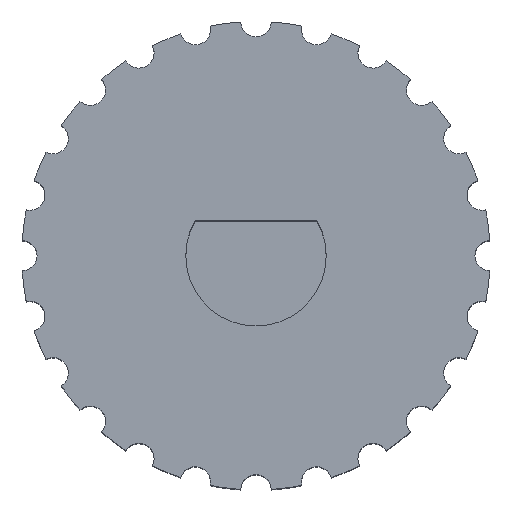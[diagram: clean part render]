
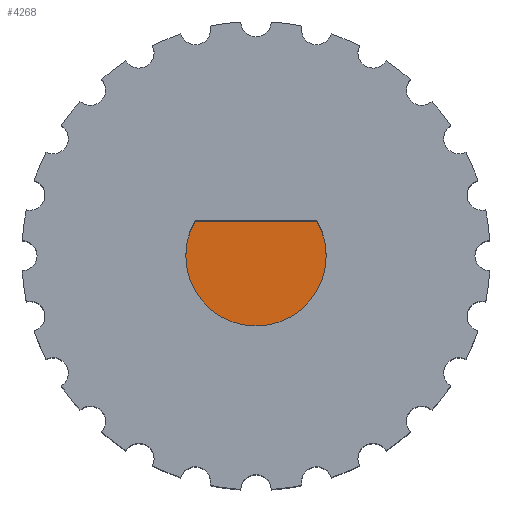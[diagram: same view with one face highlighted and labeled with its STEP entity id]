
A CAD part, top view. The second image highlights one B-rep face of the part: STEP entity #4268.
In plain terms, the highlighted planar face has unit normal (0, 0, 1).
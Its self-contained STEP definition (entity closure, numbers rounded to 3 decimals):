
#4161 = CYLINDRICAL_SURFACE('',#4162,3.);
#4162 = AXIS2_PLACEMENT_3D('',#4163,#4164,#4165);
#4163 = CARTESIAN_POINT('',(0.,0.,3.));
#4164 = DIRECTION('',(0.,0.,1.));
#4165 = DIRECTION('',(1.,0.,-0.));
#4186 = PLANE('',#4187);
#4187 = AXIS2_PLACEMENT_3D('',#4188,#4189,#4190);
#4188 = CARTESIAN_POINT('',(-6.,1.5,3.));
#4189 = DIRECTION('',(-0.,1.,0.));
#4190 = DIRECTION('',(0.,0.,1.));
#4200 = EDGE_CURVE('',#4201,#4203,#4205,.T.);
#4201 = VERTEX_POINT('',#4202);
#4202 = CARTESIAN_POINT('',(-2.598,1.5,3.));
#4203 = VERTEX_POINT('',#4204);
#4204 = CARTESIAN_POINT('',(2.598,1.5,3.));
#4205 = SURFACE_CURVE('',#4206,(#4210,#4217),.PCURVE_S1.);
#4206 = LINE('',#4207,#4208);
#4207 = CARTESIAN_POINT('',(-6.,1.5,3.));
#4208 = VECTOR('',#4209,1.);
#4209 = DIRECTION('',(1.,0.,-0.));
#4210 = PCURVE('',#4186,#4211);
#4211 = DEFINITIONAL_REPRESENTATION('',(#4212),#4216);
#4212 = LINE('',#4213,#4214);
#4213 = CARTESIAN_POINT('',(0.,0.));
#4214 = VECTOR('',#4215,1.);
#4215 = DIRECTION('',(0.,1.));
#4216 = ( GEOMETRIC_REPRESENTATION_CONTEXT(2)
PARAMETRIC_REPRESENTATION_CONTEXT() REPRESENTATION_CONTEXT('2D SPACE',''
  ) );
#4217 = PCURVE('',#4218,#4223);
#4218 = PLANE('',#4219);
#4219 = AXIS2_PLACEMENT_3D('',#4220,#4221,#4222);
#4220 = CARTESIAN_POINT('',(0.,0.,3.));
#4221 = DIRECTION('',(0.,0.,1.));
#4222 = DIRECTION('',(1.,0.,-0.));
#4223 = DEFINITIONAL_REPRESENTATION('',(#4224),#4228);
#4224 = LINE('',#4225,#4226);
#4225 = CARTESIAN_POINT('',(-6.,1.5));
#4226 = VECTOR('',#4227,1.);
#4227 = DIRECTION('',(1.,0.));
#4228 = ( GEOMETRIC_REPRESENTATION_CONTEXT(2)
PARAMETRIC_REPRESENTATION_CONTEXT() REPRESENTATION_CONTEXT('2D SPACE',''
  ) );
#4268 = ADVANCED_FACE('',(#4269),#4218,.T.);
#4269 = FACE_BOUND('',#4270,.T.);
#4270 = EDGE_LOOP('',(#4271,#4272));
#4271 = ORIENTED_EDGE('',*,*,#4200,.F.);
#4272 = ORIENTED_EDGE('',*,*,#4273,.F.);
#4273 = EDGE_CURVE('',#4203,#4201,#4274,.T.);
#4274 = SURFACE_CURVE('',#4275,(#4280,#4291),.PCURVE_S1.);
#4275 = CIRCLE('',#4276,3.);
#4276 = AXIS2_PLACEMENT_3D('',#4277,#4278,#4279);
#4277 = CARTESIAN_POINT('',(0.,0.,3.));
#4278 = DIRECTION('',(0.,0.,-1.));
#4279 = DIRECTION('',(0.866,0.5,0.));
#4280 = PCURVE('',#4218,#4281);
#4281 = DEFINITIONAL_REPRESENTATION('',(#4282),#4290);
#4282 = ( BOUNDED_CURVE() B_SPLINE_CURVE(2,(#4283,#4284,#4285,#4286,
#4287,#4288,#4289),.UNSPECIFIED.,.T.,.F.) B_SPLINE_CURVE_WITH_KNOTS((1,2
    ,2,2,2,1),(-2.094,0.,2.094,4.189,
6.283,8.378),.UNSPECIFIED.) CURVE()
GEOMETRIC_REPRESENTATION_ITEM() RATIONAL_B_SPLINE_CURVE((1.,0.5,1.,0.5,
1.,0.5,1.)) REPRESENTATION_ITEM('') );
#4283 = CARTESIAN_POINT('',(2.598,1.5));
#4284 = CARTESIAN_POINT('',(5.196,-3.));
#4285 = CARTESIAN_POINT('',(0.,-3.));
#4286 = CARTESIAN_POINT('',(-5.196,-3.));
#4287 = CARTESIAN_POINT('',(-2.598,1.5));
#4288 = CARTESIAN_POINT('',(0.,6.));
#4289 = CARTESIAN_POINT('',(2.598,1.5));
#4290 = ( GEOMETRIC_REPRESENTATION_CONTEXT(2)
PARAMETRIC_REPRESENTATION_CONTEXT() REPRESENTATION_CONTEXT('2D SPACE',''
  ) );
#4291 = PCURVE('',#4161,#4292);
#4292 = DEFINITIONAL_REPRESENTATION('',(#4293),#4297);
#4293 = LINE('',#4294,#4295);
#4294 = CARTESIAN_POINT('',(6.807,0.));
#4295 = VECTOR('',#4296,1.);
#4296 = DIRECTION('',(-1.,-0.));
#4297 = ( GEOMETRIC_REPRESENTATION_CONTEXT(2)
PARAMETRIC_REPRESENTATION_CONTEXT() REPRESENTATION_CONTEXT('2D SPACE',''
  ) );
